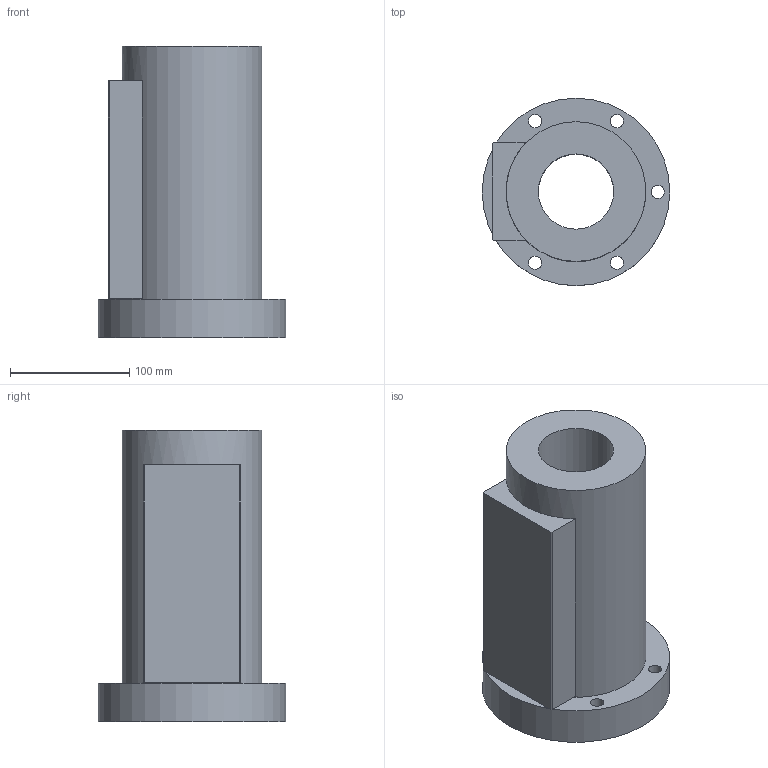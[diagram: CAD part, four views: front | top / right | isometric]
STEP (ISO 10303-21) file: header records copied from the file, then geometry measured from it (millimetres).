
FILE_DESCRIPTION(/* description */ (''),/* implementation_level */ '2;1');
FILE_NAME(/* name */ '63-20B3',/* time_stamp */ '2006-07-31T11:56:43+08:00',/* author */ (''),/* organization */ (''),/* preprocessor_version */ 'ST-DEVELOPER v9',/* originating_system */ 'UGS - NX 4.0',/* authorisation */ '');
FILE_SCHEMA (('CONFIG_CONTROL_DESIGN'));
Length unit declared in the file: millimetre
Products named in the file (1): 63-20B3
Bounding box: 157 x 157 x 244 mm (x, y, z)
Volume: 2364380.1 mm3; surface area: 191391.8 mm2
Topology: 1 solids, 1 shells, 28 faces, 61 edges, 42 vertices
Faces by surface type: plane 15, cylinder 13
Full cylindrical faces by diameter (mm): 11 x5, 17.5 x5, 63 x1, 117 x1, 157 x1
Entity records: 794 total; most frequent: DIRECTION 130, CARTESIAN_POINT 111, ORIENTED_EDGE 88, EDGE_LOOP 60, AXIS2_PLACEMENT_3D 57, FACE_BOUND 45, EDGE_CURVE 44, VERTEX_POINT 38
